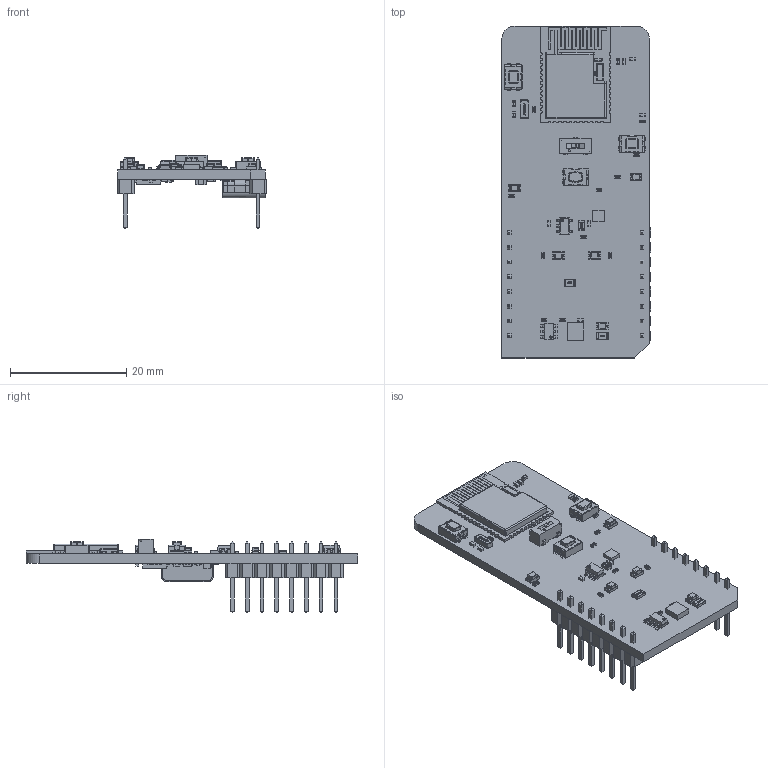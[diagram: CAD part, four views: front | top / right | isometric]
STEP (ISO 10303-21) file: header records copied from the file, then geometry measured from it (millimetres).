
FILE_DESCRIPTION(('Open CASCADE Model'),'2;1');
FILE_NAME('Open CASCADE Shape Model','2025-12-03T12:53:06',('Author'),( 'Open CASCADE'),'Open CASCADE STEP processor 6.8','Open CASCADE 6.8' ,'Unknown');
FILE_SCHEMA(('AUTOMOTIVE_DESIGN { 1 0 10303 214 1 1 1 1 }'));
Length unit declared in the file: millimetre
Products named in the file (122): PCB; Board; R2; User_Library-R_0402; U2; User_Library-SOT23-6-2; U1; -1721013040; Extruded; C1; User_Library-SMD_CAPACITOR0402; LD1; led_0805_green; R1; User_Library-R_0805; R3; JP2; Y1; ABS07; User_Library-ABS07_ABS07_Body_2; User_Library-ABS07_ABS07_Body2_2; User_Library-ABS07_ABS07_Beschriftung_2; User_Library-ABS07_ABS07_Pads_2; U5; User_Library-QFN-16-1; U4; User_Library-SOT23-5-2; U3; 2620011024000; 600-20125-01_REV2_1; TP24X40; FBGA_4_5X4_5X0_8_TBD_62BALL; CAPC1005_IS0402Q; L0603; 0201; XTALS4_2M0X1M6; CYPRESS_LOGO; 213043_SHIELD_COVER; SHIELD_SOLDERING_PAD; ANTENNA_TRACE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
Assembly tree (220 placements, depth 10):
  PCB
    Board
    R2
      User_Library-R_0402
    U2
      User_Library-SOT23-6-2
    U1
      -1721013040
        Extruded
    C1
      User_Library-SMD_CAPACITOR0402
    LD1
      led_0805_green
    R1
      User_Library-R_0805
    R3
      User_Library-R_0402
    JP2
      User_Library-R_0805
    Y1
      ABS07
        User_Library-ABS07_ABS07_Body_2
        User_Library-ABS07_ABS07_Body2_2
        User_Library-ABS07_ABS07_Beschriftung_2
        User_Library-ABS07_ABS07_Pads_2
    U5
      User_Library-QFN-16-1
    U4
      User_Library-SOT23-5-2
    U3
      2620011024000
        600-20125-01_REV2_1
        TP24X40  x35
        FBGA_4_5X4_5X0_8_TBD_62BALL
        CAPC1005_IS0402Q  x4
        L0603
        0201  x18
        XTALS4_2M0X1M6
        CYPRESS_LOGO
        213043_SHIELD_COVER
        SHIELD_SOLDERING_PAD
        ANTENNA_TRACE
    T3
      User_Library-Switch-CK-KMR2
        User_Library-Switch-CK-KMR2_Button
        User_Library-Switch-CK-KMR2_Boitier
        User_Library-Switch-CK-KMR2_Tole
        User_Library-Switch-CK-KMR2_Pads
    T2
      User_Library-Switch-CK-KMR2
        User_Library-Switch-CK-KMR2_Button
        User_Library-Switch-CK-KMR2_Boitier
        User_Library-Switch-CK-KMR2_Tole
        User_Library-Switch-CK-KMR2_Pads
    T1
      User_Library-Switch-CK-KMR2
        User_Library-Switch-CK-KMR2_Button
        User_Library-Switch-CK-KMR2_Boitier
        User_Library-Switch-CK-KMR2_Tole
        User_Library-Switch-CK-KMR2_Pads
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Bounding box: 25.78 x 57.15 x 12.61 mm (x, y, z)
Volume: 3255.7 mm3; surface area: 6671.8 mm2
Topology: 234 solids, 234 shells, 5720 faces, 14383 edges, 9159 vertices
Faces by surface type: plane 3763, cylinder 909, bspline 802, sphere 222, cone 22, torus 2
Full cylindrical faces by diameter (mm): 0.6 x2
Entity records: 97247 total; most frequent: CARTESIAN_POINT 24513, ORIENTED_EDGE 12466, DIRECTION 10805, EDGE_CURVE 6233, LINE 4499, VECTOR 4499, VERTEX_POINT 4053, AXIS2_PLACEMENT_3D 3153
